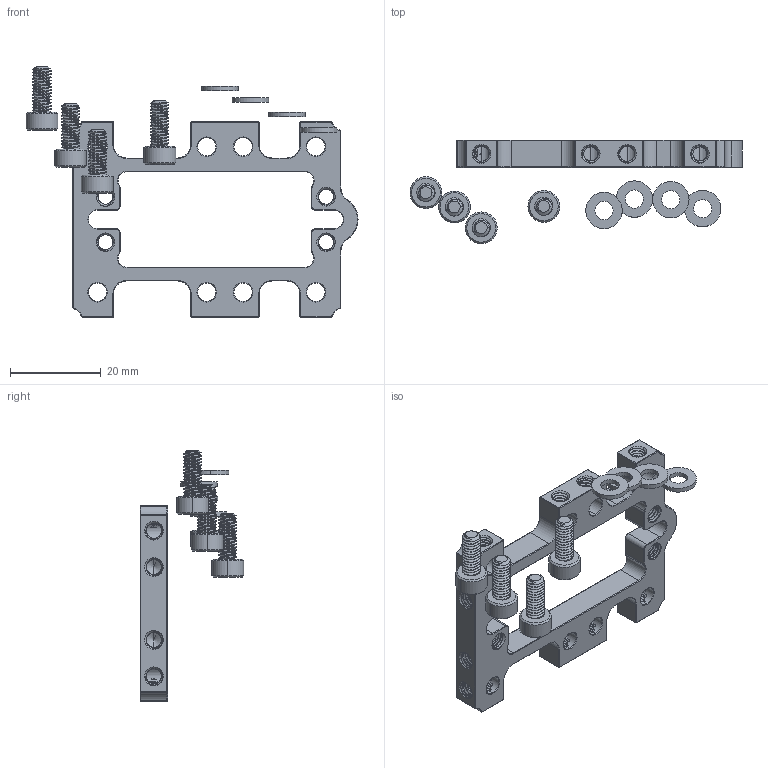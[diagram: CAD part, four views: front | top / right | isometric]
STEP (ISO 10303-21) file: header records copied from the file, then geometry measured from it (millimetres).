
FILE_DESCRIPTION (( 'STEP AP203' ), '1' );
FILE_NAME ('1802-0043-0001 assembly.STEP', '2021-06-14T16:51:51', ( '' ), ( '' ), 'SwSTEP 2.0', 'SolidWorks 2016', '' );
FILE_SCHEMA (( 'CONFIG_CONTROL_DESIGN' ));
Length unit declared in the file: millimetre
Products named in the file (4): 2801-0004-0008_91166A230; 1802-0043-0001 assembly; 1802-0043-0001; 2800-0004-0010_90128A207
Assembly tree (9 placements, depth 2):
  1802-0043-0001 assembly
    1802-0043-0001
    2800-0004-0010_90128A207  x4
    2801-0004-0008_91166A230  x4
Bounding box: 72.97 x 22.74 x 55.08 mm (x, y, z)
Volume: 7012 mm3; surface area: 8083.7 mm2
Topology: 9 solids, 9 shells, 1245 faces, 3433 edges, 2220 vertices
Faces by surface type: cylinder 778, cone 192, plane 161, bspline 114
Entity records: 153363 total; most frequent: CARTESIAN_POINT 131879, ORIENTED_EDGE 5412, DIRECTION 3300, EDGE_CURVE 2706, VERTEX_POINT 1755, AXIS2_PLACEMENT_3D 1193, EDGE_LOOP 1029, ADVANCED_FACE 969
